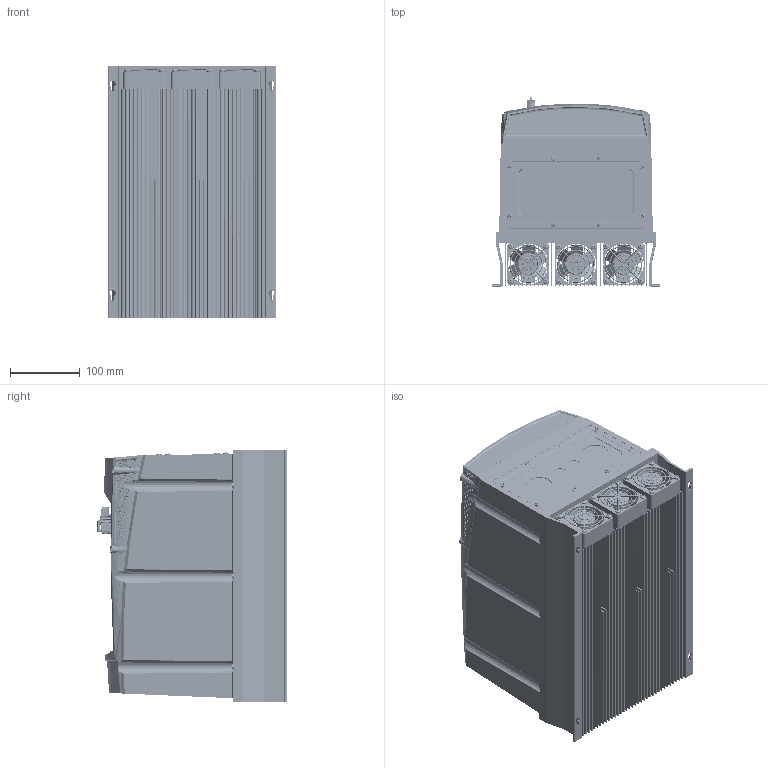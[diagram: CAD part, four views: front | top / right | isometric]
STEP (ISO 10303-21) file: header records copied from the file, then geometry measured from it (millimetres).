
FILE_DESCRIPTION (( 'STEP AP203' ), '1' );
FILE_NAME ('E3.IP66.Gen2.SIZE4.LED.Switched-Closed (ENVELOPE) (4-Hole).STEP', '2022-08-04T13:29:15', ( '' ), ( '' ), 'SwSTEP 2.0', 'SolidWorks 2022', '' );
FILE_SCHEMA (( 'CONFIG_CONTROL_DESIGN' ));
Products named in the file (1): E3.IP66.Gen2.SIZE4.LED.Switched-Closed (ENVELOPE) (4-Hole)
Bounding box: 240 x 271.18 x 360.09 mm (x, y, z)
Volume: 15216642.8 mm3; surface area: 1952431.4 mm2
Topology: 2 solids, 70 shells, 8491 faces, 24542 edges, 15925 vertices
Faces by surface type: cylinder 2516, sphere 2076, plane 1698, bspline 1259, cone 627, torus 315
Entity records: 332004 total; most frequent: CARTESIAN_POINT 146977, ORIENTED_EDGE 41214, DIRECTION 36137, EDGE_CURVE 20607, AXIS2_PLACEMENT_3D 14979, VERTEX_POINT 13433, EDGE_LOOP 8964, CIRCLE 8274
